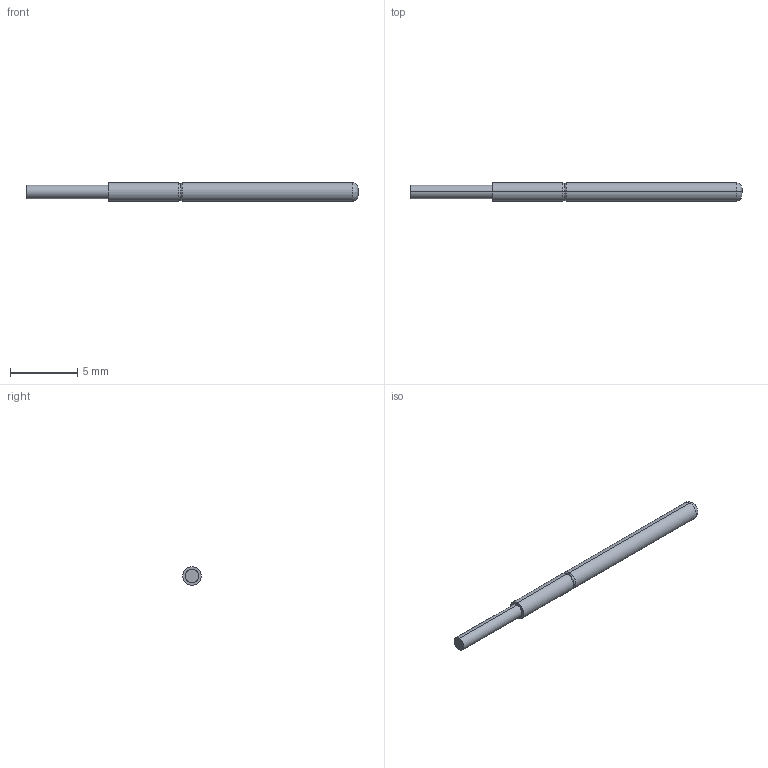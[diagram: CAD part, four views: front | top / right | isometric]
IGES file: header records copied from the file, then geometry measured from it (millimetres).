
Start section: SolidWorks IGES file using analytic representation for surfaces
Global section: file name: Z:\probe solid model mockups\Solidworks models\IGES Files\EPA-2\EPA-2C40.IGS; native system: SolidWorks 2006 by SolidWorks Corporation; preprocessor: SolidWorks 2006 by SolidWorks Corporation; author: tsakatani; date: 071220.161536; units: inch
Bounding box: 24.64 x 1.37 x 1.37 mm (x, y, z)
Surface area: 101.6 mm2 (no closed solid volume)
Topology: 0 solids, 0 shells, 15 faces, 112 edges, 112 vertices
Faces by surface type: bspline 9, revolution 6
